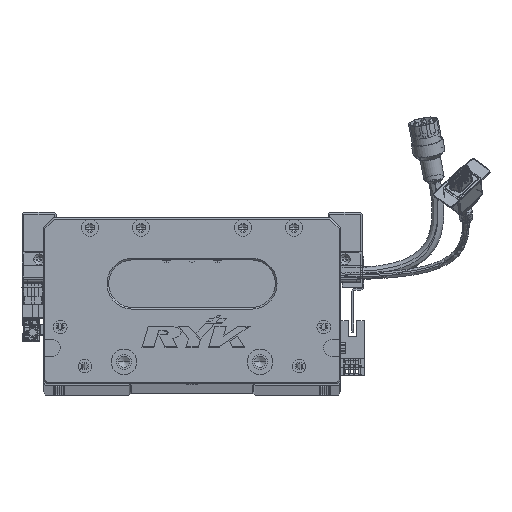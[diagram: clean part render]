
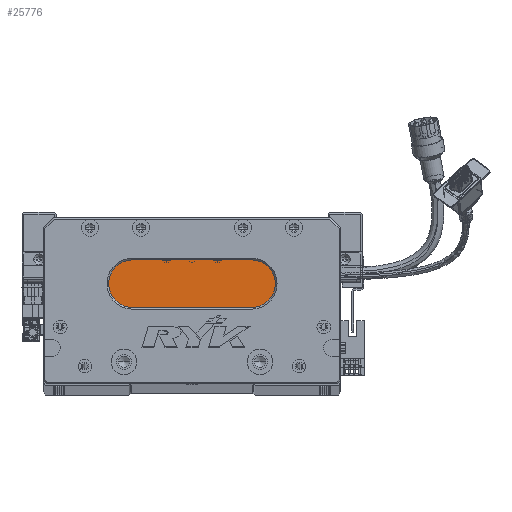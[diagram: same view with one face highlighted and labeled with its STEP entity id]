
A CAD part, top view. The second image highlights one B-rep face of the part: STEP entity #25776.
In plain terms, the highlighted planar face has unit normal (0, 0, 1) as drawn and (0, 0, -1) by its records, which use the part's own axes.
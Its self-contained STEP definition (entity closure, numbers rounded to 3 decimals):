
#1228 = VERTEX_POINT ( 'NONE', #25717 ) ;
#4537 = DIRECTION ( 'NONE',  ( -1., 0., 0. ) ) ;
#5036 = CARTESIAN_POINT ( 'NONE',  ( 122.5, 59., 18. ) ) ;
#7851 = EDGE_CURVE ( 'NONE', #118251, #128307, #100439, .T. ) ;
#18701 = ORIENTED_EDGE ( 'NONE', *, *, #132919, .T. ) ;
#19254 = CARTESIAN_POINT ( 'NONE',  ( 52.5, 59., 18. ) ) ;
#21726 = AXIS2_PLACEMENT_3D ( 'NONE', #19254, #38892, #82661 ) ;
#25707 = DIRECTION ( 'NONE',  ( 0., 0., -1. ) ) ;
#25717 = CARTESIAN_POINT ( 'NONE',  ( 122.5, 73., 18. ) ) ;
#25776 = ADVANCED_FACE ( 'NONE', ( #67844 ), #109580, .T. ) ;
#26587 = CARTESIAN_POINT ( 'NONE',  ( 52.5, 45., 18. ) ) ;
#31570 = DIRECTION ( 'NONE',  ( -1., 0., 0. ) ) ;
#35062 = EDGE_LOOP ( 'NONE', ( #51281, #18701, #138899, #118426, #63481 ) ) ;
#38479 = AXIS2_PLACEMENT_3D ( 'NONE', #41898, #117141, #31570 ) ;
#38892 = DIRECTION ( 'NONE',  ( 0., 0., -1. ) ) ;
#40731 = VERTEX_POINT ( 'NONE', #89078 ) ;
#41898 = CARTESIAN_POINT ( 'NONE',  ( 52.5, 59., 18. ) ) ;
#42752 = DIRECTION ( 'NONE',  ( 1., 0., 0. ) ) ;
#45188 = DIRECTION ( 'NONE',  ( 0., 0., -1. ) ) ;
#48864 = CARTESIAN_POINT ( 'NONE',  ( 38.5, 59., 18. ) ) ;
#51281 = ORIENTED_EDGE ( 'NONE', *, *, #75335, .T. ) ;
#57943 = VERTEX_POINT ( 'NONE', #86534 ) ;
#63481 = ORIENTED_EDGE ( 'NONE', *, *, #120765, .T. ) ;
#66832 = CARTESIAN_POINT ( 'NONE',  ( 122.5, 59., 18. ) ) ;
#67844 = FACE_OUTER_BOUND ( 'NONE', #35062, .T. ) ;
#71927 = VECTOR ( 'NONE', #4537, 1000. ) ;
#75335 = EDGE_CURVE ( 'NONE', #1228, #40731, #82947, .T. ) ;
#76766 = EDGE_CURVE ( 'NONE', #128307, #57943, #111631, .T. ) ;
#79703 = CARTESIAN_POINT ( 'NONE',  ( 122.5, 45., 18. ) ) ;
#82661 = DIRECTION ( 'NONE',  ( -1., 0., 0. ) ) ;
#82947 = CIRCLE ( 'NONE', #120256, 14. ) ;
#82972 = VECTOR ( 'NONE', #42752, 1000. ) ;
#86534 = CARTESIAN_POINT ( 'NONE',  ( 52.5, 73., 18. ) ) ;
#89078 = CARTESIAN_POINT ( 'NONE',  ( 122.5, 45., 18. ) ) ;
#100439 = CIRCLE ( 'NONE', #21726, 14. ) ;
#101219 = AXIS2_PLACEMENT_3D ( 'NONE', #66832, #45188, #120430 ) ;
#109580 = PLANE ( 'NONE',  #101219 ) ;
#111631 = CIRCLE ( 'NONE', #38479, 14. ) ;
#112237 = LINE ( 'NONE', #79703, #71927 ) ;
#117141 = DIRECTION ( 'NONE',  ( 0., 0., -1. ) ) ;
#118251 = VERTEX_POINT ( 'NONE', #26587 ) ;
#118426 = ORIENTED_EDGE ( 'NONE', *, *, #76766, .T. ) ;
#120256 = AXIS2_PLACEMENT_3D ( 'NONE', #5036, #25707, #121143 ) ;
#120430 = DIRECTION ( 'NONE',  ( -1., 0., 0. ) ) ;
#120765 = EDGE_CURVE ( 'NONE', #57943, #1228, #136746, .T. ) ;
#121143 = DIRECTION ( 'NONE',  ( -1., 0., 0. ) ) ;
#127874 = CARTESIAN_POINT ( 'NONE',  ( 122.5, 73., 18. ) ) ;
#128307 = VERTEX_POINT ( 'NONE', #48864 ) ;
#132919 = EDGE_CURVE ( 'NONE', #40731, #118251, #112237, .T. ) ;
#136746 = LINE ( 'NONE', #127874, #82972 ) ;
#138899 = ORIENTED_EDGE ( 'NONE', *, *, #7851, .T. ) ;
